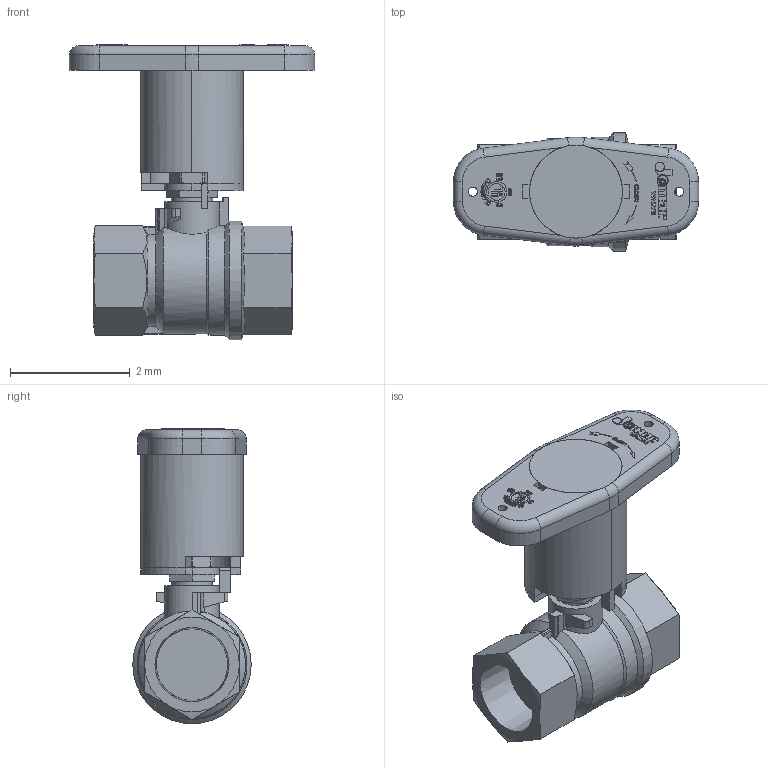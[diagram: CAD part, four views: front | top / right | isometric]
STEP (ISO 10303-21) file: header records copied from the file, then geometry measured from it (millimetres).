
FILE_DESCRIPTION(('Open CASCADE Model'),'2;1');
FILE_NAME('Open CASCADE Shape Model','2021-10-12T08:17:41',('Author'),( 'Open CASCADE'),'Open CASCADE STEP processor 7.3','Open CASCADE 7.3' ,'Unknown');
FILE_SCHEMA(('AUTOMOTIVE_DESIGN { 1 0 10303 214 1 1 1 1 }'));
Length unit declared in the file: millimetre
Products named in the file (169): Open CASCADE STEP translator 7.3 1; Open CASCADE STEP translator 7.3 1.1; Open CASCADE STEP translator 7.3 1.2; Open CASCADE STEP translator 7.3 1.3; Open CASCADE STEP translator 7.3 1.4; Open CASCADE STEP translator 7.3 1.5; Open CASCADE STEP translator 7.3 1.6; Open CASCADE STEP translator 7.3 1.7; Open CASCADE STEP translator 7.3 1.7.1; Open CASCADE STEP translator 7.3 1.7.2; Open CASCADE STEP translator 7.3 1.7.3; Open CASCADE STEP translator 7.3 1.7.4; Open CASCADE STEP translator 7.3 1.7.5; Open CASCADE STEP translator 7.3 1.7.6; Open CASCADE STEP translator 7.3 1.7.7; Open CASCADE STEP translator 7.3 1.7.8; Open CASCADE STEP translator 7.3 1.7.9; Open CASCADE STEP translator 7.3 1.7.10; Open CASCADE STEP translator 7.3 1.7.11; Open CASCADE STEP translator 7.3 1.7.12; Open CASCADE STEP translator 7.3 1.7.13; Open CASCADE STEP translator 7.3 1.7.14; Open CASCADE STEP translator 7.3 1.7.15; Open CASCADE STEP translator 7.3 1.7.16; Open CASCADE STEP translator 7.3 1.7.17; Open CASCADE STEP translator 7.3 1.7.18; Open CASCADE STEP translator 7.3 1.7.19; Open CASCADE STEP translator 7.3 1.7.20; Open CASCADE STEP translator 7.3 1.7.21; Open CASCADE STEP translator 7.3 1.7.22; Open CASCADE STEP translator 7.3 1.7.23; Open CASCADE STEP translator 7.3 1.7.24; Open CASCADE STEP translator 7.3 1.7.25; Open CASCADE STEP translator 7.3 1.7.26; Open CASCADE STEP translator 7.3 1.7.27; Open CASCADE STEP translator 7.3 1.7.28; Open CASCADE STEP translator 7.3 1.7.29; Open CASCADE STEP translator 7.3 1.7.30; Open CASCADE STEP translator 7.3 1.7.31; Open CASCADE STEP translator 7.3 1.7.32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
Assembly tree (168 placements, depth 3):
  Open CASCADE STEP translator 7.3 1
    Open CASCADE STEP translator 7.3 1.1
    Open CASCADE STEP translator 7.3 1.2
    Open CASCADE STEP translator 7.3 1.3
    Open CASCADE STEP translator 7.3 1.4
    Open CASCADE STEP translator 7.3 1.5
    Open CASCADE STEP translator 7.3 1.6
    Open CASCADE STEP translator 7.3 1.7
      Open CASCADE STEP translator 7.3 1.7.1
      Open CASCADE STEP translator 7.3 1.7.2
      Open CASCADE STEP translator 7.3 1.7.3
      Open CASCADE STEP translator 7.3 1.7.4
      Open CASCADE STEP translator 7.3 1.7.5
      Open CASCADE STEP translator 7.3 1.7.6
      Open CASCADE STEP translator 7.3 1.7.7
      Open CASCADE STEP translator 7.3 1.7.8
      Open CASCADE STEP translator 7.3 1.7.9
      Open CASCADE STEP translator 7.3 1.7.10
      Open CASCADE STEP translator 7.3 1.7.11
      Open CASCADE STEP translator 7.3 1.7.12
      Open CASCADE STEP translator 7.3 1.7.13
      Open CASCADE STEP translator 7.3 1.7.14
      Open CASCADE STEP translator 7.3 1.7.15
      Open CASCADE STEP translator 7.3 1.7.16
      Open CASCADE STEP translator 7.3 1.7.17
      Open CASCADE STEP translator 7.3 1.7.18
      Open CASCADE STEP translator 7.3 1.7.19
      Open CASCADE STEP translator 7.3 1.7.20
      Open CASCADE STEP translator 7.3 1.7.21
      Open CASCADE STEP translator 7.3 1.7.22
      Open CASCADE STEP translator 7.3 1.7.23
      Open CASCADE STEP translator 7.3 1.7.24
      Open CASCADE STEP translator 7.3 1.7.25
      Open CASCADE STEP translator 7.3 1.7.26
      Open CASCADE STEP translator 7.3 1.7.27
      Open CASCADE STEP translator 7.3 1.7.28
      Open CASCADE STEP translator 7.3 1.7.29
      Open CASCADE STEP translator 7.3 1.7.30
      Open CASCADE STEP translator 7.3 1.7.31
      Open CASCADE STEP translator 7.3 1.7.32
      Open CASCADE STEP translator 7.3 1.7.33
      Open CASCADE STEP translator 7.3 1.7.34
      Open CASCADE STEP translator 7.3 1.7.35
      Open CASCADE STEP translator 7.3 1.7.36
      Open CASCADE STEP translator 7.3 1.7.37
      Open CASCADE STEP translator 7.3 1.7.38
      Open CASCADE STEP translator 7.3 1.7.39
      Open CASCADE STEP translator 7.3 1.7.40
      Open CASCADE STEP translator 7.3 1.7.41
      Open CASCADE STEP translator 7.3 1.7.42
      Open CASCADE STEP translator 7.3 1.7.43
    Open CASCADE STEP translator 7.3 1.8
    Open CASCADE STEP translator 7.3 1.9
    Open CASCADE STEP translator 7.3 1.10
    Open CASCADE STEP translator 7.3 1.11
    Open CASCADE STEP translator 7.3 1.12
    Open CASCADE STEP translator 7.3 1.13
    Open CASCADE STEP translator 7.3 1.14
    Open CASCADE STEP translator 7.3 1.15
    Open CASCADE STEP translator 7.3 1.16
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Bounding box: 4.1 x 1.98 x 4.94 mm (x, y, z)
Volume: 3.2 mm3; surface area: 83.5 mm2
Topology: 45 solids, 167 shells, 2726 faces, 8124 edges, 5608 vertices
Faces by surface type: plane 2552, cylinder 130, cone 32, torus 6, extrusion 6
Full cylindrical faces by diameter (mm): 0.018 x1, 0.021 x1, 0.054 x1, 0.076 x1, 0.151 x1, 0.152 x2, 0.435 x1, 0.495 x1, 0.5 x1, 0.688 x1, 1.35 x1, 1.408 x2, 1.501 x1, 1.553 x1, 1.98 x1
Entity records: 201234 total; most frequent: CARTESIAN_POINT 40024, DIRECTION 29281, VECTOR 22591, LINE 22585, ORIENTED_EDGE 15638, PCURVE 15638, DEFINITIONAL_REPRESENTATION 15638, EDGE_CURVE 8124
